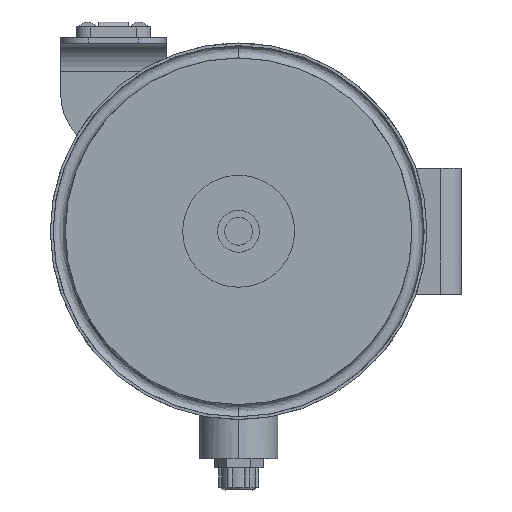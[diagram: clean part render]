
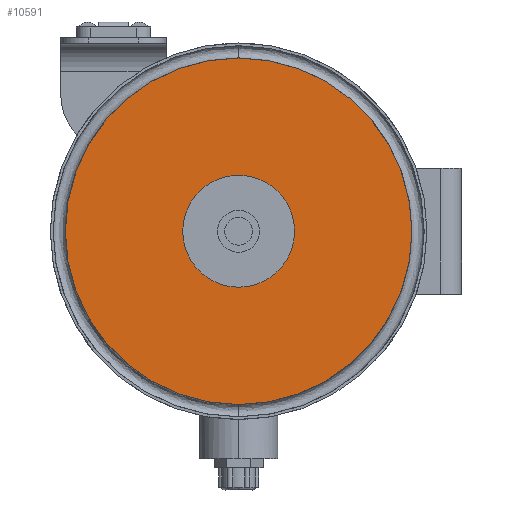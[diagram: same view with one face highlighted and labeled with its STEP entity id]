
A CAD part, left-side view. The second image highlights one B-rep face of the part: STEP entity #10591.
In plain terms, the highlighted planar face has unit normal (-1, 0, 0).
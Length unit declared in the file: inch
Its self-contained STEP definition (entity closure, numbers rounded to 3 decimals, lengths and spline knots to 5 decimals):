
#249 = EDGE_CURVE ( 'NONE', #1487, #1506, #4654, .T. ) ;
#277 = EDGE_CURVE ( 'NONE', #1506, #1487, #3561, .T. ) ;
#732 = DIRECTION ( 'NONE',  ( 0., 0., -1. ) ) ;
#1358 = AXIS2_PLACEMENT_3D ( 'NONE', #5468, #12073, #6414 ) ;
#1487 = VERTEX_POINT ( 'NONE', #11993 ) ;
#1506 = VERTEX_POINT ( 'NONE', #11877 ) ;
#2157 = AXIS2_PLACEMENT_3D ( 'NONE', #5456, #6395, #732 ) ;
#2189 = CARTESIAN_POINT ( 'NONE',  ( -5.702, 0., -2. ) ) ;
#2631 = ORIENTED_EDGE ( 'NONE', *, *, #8826, .F. ) ;
#3374 = AXIS2_PLACEMENT_3D ( 'NONE', #5453, #5430, #5418 ) ;
#3561 = CIRCLE ( 'NONE', #7179, 6.19231 ) ;
#3775 = CIRCLE ( 'NONE', #1358, 2. ) ;
#4392 = EDGE_LOOP ( 'NONE', ( #7764, #9554 ) ) ;
#4654 = CIRCLE ( 'NONE', #3374, 6.19231 ) ;
#4744 = DIRECTION ( 'NONE',  ( 0., 0., -1. ) ) ;
#4775 = DIRECTION ( 'NONE',  ( -1., 0., 0. ) ) ;
#4786 = CARTESIAN_POINT ( 'NONE',  ( -5.702, 0., 0. ) ) ;
#5411 = CARTESIAN_POINT ( 'NONE',  ( -5.702, 0., 0. ) ) ;
#5418 = DIRECTION ( 'NONE',  ( 0., 0., -1. ) ) ;
#5430 = DIRECTION ( 'NONE',  ( -1., 0., 0. ) ) ;
#5453 = CARTESIAN_POINT ( 'NONE',  ( -5.702, 0., 0. ) ) ;
#5456 = CARTESIAN_POINT ( 'NONE',  ( -5.702, 0., 0. ) ) ;
#5468 = CARTESIAN_POINT ( 'NONE',  ( -5.702, 0., 0. ) ) ;
#6349 = DIRECTION ( 'NONE',  ( 0., 0., -1. ) ) ;
#6395 = DIRECTION ( 'NONE',  ( 1., 0., 0. ) ) ;
#6414 = DIRECTION ( 'NONE',  ( 0., 0., -1. ) ) ;
#6522 = ORIENTED_EDGE ( 'NONE', *, *, #10119, .F. ) ;
#6575 = FACE_OUTER_BOUND ( 'NONE', #4392, .T. ) ;
#7069 = EDGE_LOOP ( 'NONE', ( #6522, #2631 ) ) ;
#7179 = AXIS2_PLACEMENT_3D ( 'NONE', #4786, #4775, #4744 ) ;
#7764 = ORIENTED_EDGE ( 'NONE', *, *, #277, .T. ) ;
#8637 = VERTEX_POINT ( 'NONE', #2189 ) ;
#8826 = EDGE_CURVE ( 'NONE', #9685, #8637, #9638, .T. ) ;
#9231 = CARTESIAN_POINT ( 'NONE',  ( -5.702, 0., 2. ) ) ;
#9335 = FACE_BOUND ( 'NONE', #7069, .T. ) ;
#9554 = ORIENTED_EDGE ( 'NONE', *, *, #249, .T. ) ;
#9638 = CIRCLE ( 'NONE', #11622, 2. ) ;
#9685 = VERTEX_POINT ( 'NONE', #9231 ) ;
#10119 = EDGE_CURVE ( 'NONE', #8637, #9685, #3775, .T. ) ;
#10591 = ADVANCED_FACE ( 'NONE', ( #9335, #6575 ), #12060, .F. ) ;
#11622 = AXIS2_PLACEMENT_3D ( 'NONE', #5411, #12001, #6349 ) ;
#11877 = CARTESIAN_POINT ( 'NONE',  ( -5.702, 0., 6.19231 ) ) ;
#11993 = CARTESIAN_POINT ( 'NONE',  ( -5.702, 0., -6.19231 ) ) ;
#12001 = DIRECTION ( 'NONE',  ( -1., 0., 0. ) ) ;
#12060 = PLANE ( 'NONE',  #2157 ) ;
#12073 = DIRECTION ( 'NONE',  ( -1., 0., 0. ) ) ;
